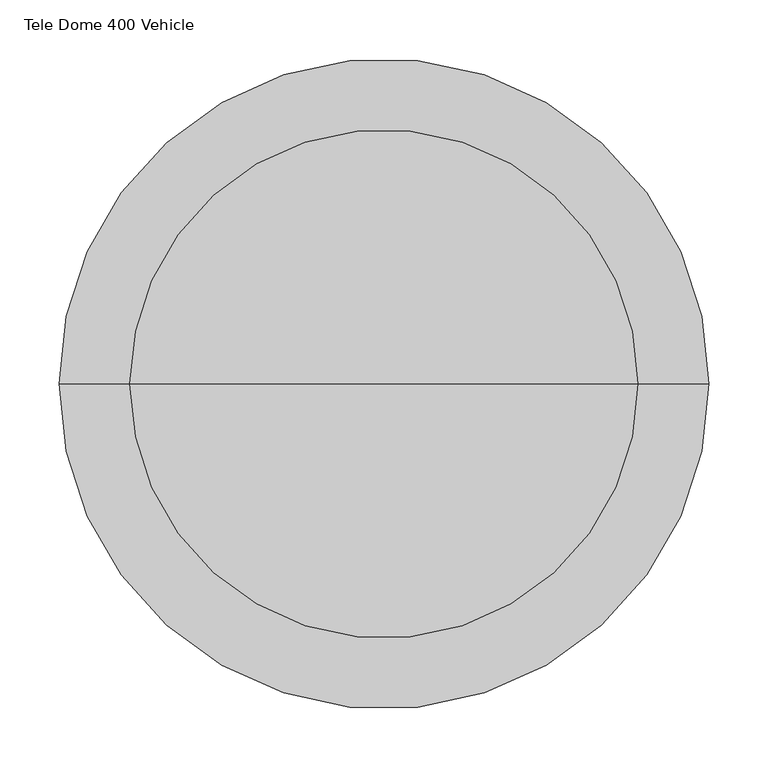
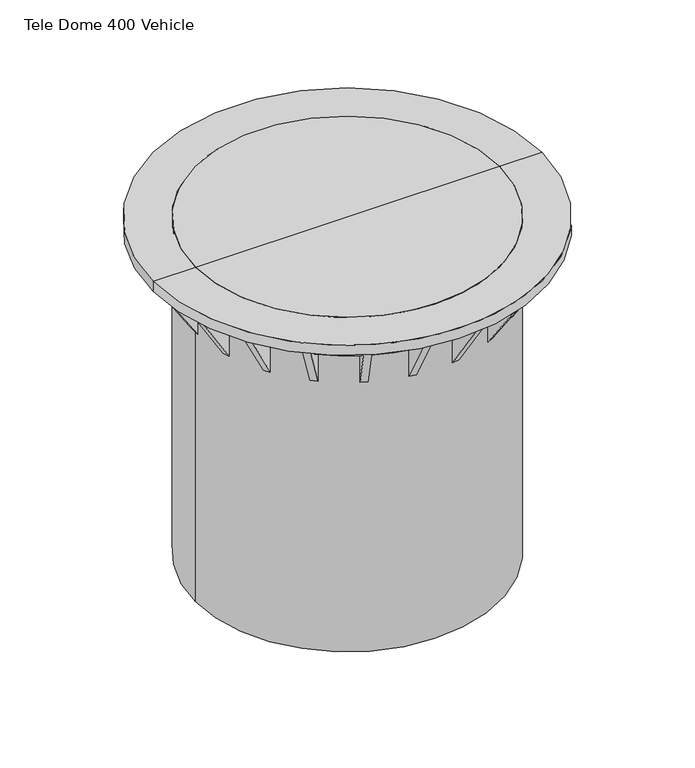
"""IFC4 building model written with IfcOpenShell, lengths in millimetres: proxy geometry, GRAF Tele Dome 400 Vehicle : Tele Dome 400 Vehicle."""

from ifc_helpers import new_model, si_unit, point, frame, origin, origin_2d, place, context, project, spatial, polyline, circle_curve, trimmed, segment, composite_curve, outline, extrude, source, transform, mapped, element, save
from ifc_brep_helpers import plane_surface, cylinder_surface, revolved_surface, advanced_brep


def tele_dome_400_vehicle_8fc43494(model_context):
    return source(origin(), model_context, "Body", "SolidModel", [
        advanced_brep(
        [(0.0, 0.0, -14.9500624), (-215.0, 0.0, -14.9500624), (215.0, 0.0, -14.9500624), (-215.0, 0.0, 0.0), (215.0, 0.0, 0.0), (0.0, 0.0, 0.0)],
        [
            (0, 1),
            (1, 2, circle_curve(frame((0.0, 0.0, -14.9500624), z_axis=(0.0, 0.0, -1.0), x_axis=(-1.0, 0.0, 0.0)), 215.0)),
            (2, 0),
            (2, 1, circle_curve(frame((0.0, 0.0, -14.9500624), z_axis=(0.0, 0.0, -1.0), x_axis=(-1.0, 0.0, 0.0)), 215.0)),
            (1, 3),
            (3, 4, circle_curve(frame((0.0, 0.0, 0.0), z_axis=(0.0, 0.0, -1.0), x_axis=(-1.0, 0.0, 0.0)), 215.0)),
            (4, 2),
            (4, 3, circle_curve(frame((0.0, 0.0, 0.0), z_axis=(0.0, 0.0, -1.0), x_axis=(-1.0, 0.0, 0.0)), 215.0)),
            (3, 5),
            (5, 4),
        ],
        [
            plane_surface(frame((0.0, 0.0, -14.9500624), z_axis=(0.0, 0.0, -1.0), x_axis=(-1.0, 0.0, 0.0))),
            cylinder_surface(frame((0.0, 0.0, -119.9500624), z_axis=(0.0, 0.0, -1.0), x_axis=(-1.0, 0.0, 0.0)), 215.0),
            plane_surface(frame((0.0, 0.0, 0.0), z_axis=(0.0, 0.0, 1.0), x_axis=(-1.0, 0.0, 0.0))),
        ],
        [
            (0, [[1, 2, 3]]),
            (0, [[-3, 4, -1]]),
            (1, [[-2, 5, 6, 7]]),
            (1, [[-4, -7, 8, -5]]),
            (2, [[-6, 9, 10]]),
            (2, [[-8, -10, -9]]),
        ],
    ),
        advanced_brep(
        [(215.0, 0.0, -14.9500624), (-215.0, 0.0, -14.9500624), (-275.0, 0.0, -14.9500624), (275.0, 0.0, -14.9500624), (-275.0, 0.0, 0.0), (275.0, 0.0, 0.0), (-215.0, 0.0, 0.0), (215.0, 0.0, 0.0)],
        [
            (0, 1, circle_curve(frame((0.0, 0.0, -14.9500624), z_axis=(0.0, 0.0, 1.0), x_axis=(-1.0, 0.0, 0.0)), 215.0)),
            (1, 2),
            (2, 3, circle_curve(frame((0.0, 0.0, -14.9500624), z_axis=(0.0, 0.0, -1.0), x_axis=(-1.0, 0.0, 0.0)), 275.0)),
            (3, 0),
            (1, 0, circle_curve(frame((0.0, 0.0, -14.9500624), z_axis=(0.0, 0.0, 1.0), x_axis=(-1.0, 0.0, 0.0)), 215.0)),
            (3, 2, circle_curve(frame((0.0, 0.0, -14.9500624), z_axis=(0.0, 0.0, -1.0), x_axis=(-1.0, 0.0, 0.0)), 275.0)),
            (2, 4),
            (4, 5, circle_curve(frame((0.0, 0.0, 0.0), z_axis=(0.0, 0.0, -1.0), x_axis=(-1.0, 0.0, 0.0)), 275.0)),
            (5, 3),
            (5, 4, circle_curve(frame((0.0, 0.0, 0.0), z_axis=(0.0, 0.0, -1.0), x_axis=(-1.0, 0.0, 0.0)), 275.0)),
            (4, 6),
            (6, 7, circle_curve(frame((0.0, 0.0, 0.0), z_axis=(0.0, 0.0, -1.0), x_axis=(-1.0, 0.0, 0.0)), 215.0)),
            (7, 5),
            (7, 6, circle_curve(frame((0.0, 0.0, 0.0), z_axis=(0.0, 0.0, -1.0), x_axis=(-1.0, 0.0, 0.0)), 215.0)),
            (6, 1),
            (0, 7),
        ],
        [
            plane_surface(frame((0.0, 0.0, -14.9500624), z_axis=(0.0, 0.0, -1.0), x_axis=(-1.0, 0.0, 0.0))),
            cylinder_surface(frame((0.0, 0.0, -119.9500624), z_axis=(0.0, 0.0, -1.0), x_axis=(-1.0, 0.0, 0.0)), 275.0),
            plane_surface(frame((0.0, 0.0, 0.0), z_axis=(0.0, 0.0, 1.0), x_axis=(-1.0, 0.0, 0.0))),
            revolved_surface(polyline([(-215.0, 0.0, -14.950062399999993), (-215.0, 0.0, 0.0)]), (0.0, 0.0, -119.9500624), (0.0, 0.0, -1.0)),
        ],
        [
            (0, [[1, 2, 3, 4]]),
            (0, [[5, -4, 6, -2]]),
            (1, [[-3, 7, 8, 9]]),
            (1, [[-6, -9, 10, -7]]),
            (2, [[-8, 11, 12, 13]]),
            (2, [[-10, -13, 14, -11]]),
            (3, [[-12, 15, -1, 16]]),
            (3, [[-14, -16, -5, -15]]),
        ],
    ),
        extrude(outline(composite_curve([segment(trimmed(circle_curve(origin_2d(), 215.0), [point((-215.0, 0.0))], [point((215.0, 0.0))], False, "CARTESIAN"), True, "CONTINUOUS"), segment(trimmed(circle_curve(origin_2d(), 215.0), [point((215.0, 0.0))], [point((-215.0, 0.0))], False, "CARTESIAN"), True, "CONTINUOUS")], self_intersect=False), holes=[composite_curve([segment(trimmed(circle_curve(origin_2d(), 202.0), [point((-202.0, 0.0))], [point((202.0, 0.0))], True, "CARTESIAN"), True, "CONTINUOUS"), segment(trimmed(circle_curve(origin_2d(), 202.0), [point((202.0, 0.0))], [point((-202.0, 0.0))], True, "CARTESIAN"), True, "CONTINUOUS")], self_intersect=False)]), frame((0.0, 0.0, -500.0), z_axis=(0.0, 0.0, 1.0), x_axis=(1.0, 0.0, 0.0)), (0.0, 0.0, 1.0), 485.0499376),
        extrude(outline(polyline([(82.4881085, 0.0), (82.4881085, -53.6625353), (0.0, 0.0), (82.4881085, 0.0)])), frame((-204.8823265, -65.3699646, -97.4381709), z_axis=(-0.28173255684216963, 0.9594929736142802, 0.0), x_axis=(0.0, 0.0, 1.0)), (0.0, 0.0, 1.0), 10.0),
        extrude(outline(polyline([(-14.9500624, -215.0), (-14.9500624, -268.6625353), (-97.4381709, -215.0), (-14.9500624, -215.0)])), frame((0.0, -5.0, 0.0), z_axis=(0.0, 1.0, 0.0), x_axis=(0.0, 0.0, 1.0)), (0.0, 0.0, 1.0), 10.0),
        extrude(outline(polyline([(0.0, 0.0), (53.6625353, 0.0), (0.0, -82.4881085), (0.0, 0.0)])), frame((-207.6996521, 55.7750349, -14.9500624), z_axis=(0.2817325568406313, 0.959492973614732, 0.0), x_axis=(-0.959492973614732, 0.2817325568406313, 0.0)), (0.0, 0.0, 1.0), 10.0),
        extrude(outline(polyline([(0.0, 0.0), (53.6625353, 0.0), (0.0, -82.4881085), (0.0, 0.0)])), frame((-137.0163099, -165.7604622, -14.9500624), z_axis=(-0.7557495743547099, 0.6548607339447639, 0.0), x_axis=(-0.6548607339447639, -0.7557495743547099, 0.0)), (0.0, 0.0, 1.0), 10.0),
        extrude(outline(polyline([(82.4881085, 0.0), (82.4881085, -53.6625353), (0.0, 0.0), (82.4881085, 0.0)])), frame((-178.1663055, -120.4440434, -97.4381709), z_axis=(-0.5406408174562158, 0.841253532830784, 0.0), x_axis=(0.0, 0.0, 1.0)), (0.0, 0.0, 1.0), 10.0),
        extrude(outline(polyline([(82.4881085, 0.0), (82.4881085, -53.6625352), (0.0, 0.0), (82.4881085, 0.0)])), frame((-84.7660678, -197.6479541, -97.4381709), z_axis=(-0.9096319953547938, 0.41541501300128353, 0.0), x_axis=(0.0, 0.0, 1.0)), (0.0, 0.0, 1.0), 10.0),
        extrude(outline(polyline([(82.4881085, 0.0), (82.4881085, -53.6625353), (0.0, 0.0), (82.4881085, 0.0)])), frame((-25.648583, -213.5231842, -97.4381709), z_axis=(-0.9898214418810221, 0.14231483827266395, 0.0), x_axis=(0.0, 0.0, 1.0)), (0.0, 0.0, 1.0), 10.0),
        extrude(outline(polyline([(-14.9500624, 215.0), (-97.4381709, 215.0), (-14.9500624, 268.6625353), (-14.9500624, 215.0)])), frame((0.0, -5.0, 0.0), z_axis=(0.0, 1.0, 0.0), x_axis=(0.0, 0.0, 1.0)), (0.0, 0.0, 1.0), 10.0),
        extrude(outline(polyline([(-82.4881085, 0.0), (0.0, 0.0), (-82.4881085, -53.6625353), (-82.4881085, 0.0)])), frame((207.6996521, 55.7750349, -97.4381709), z_axis=(-0.28173255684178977, 0.9594929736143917, 0.0), x_axis=(0.0, 0.0, -1.0)), (0.0, 0.0, 1.0), 10.0),
        extrude(outline(polyline([(-82.4881085, 0.0), (0.0, 0.0), (-82.4881085, -53.6625353), (-82.4881085, 0.0)])), frame((183.5727136, 112.0315081, -97.4381709), z_axis=(-0.5406408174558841, 0.8412535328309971, 0.0), x_axis=(0.0, 0.0, -1.0)), (0.0, 0.0, 1.0), 10.0),
        extrude(outline(polyline([(-82.4881085, 0.0), (0.0, 0.0), (-82.4881085, -53.6625353), (-82.4881085, 0.0)])), frame((178.1663055, -120.4440434, -97.4381709), z_axis=(0.5406408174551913, 0.8412535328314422, 0.0), x_axis=(0.0, 0.0, -1.0)), (0.0, 0.0, 1.0), 10.0),
        extrude(outline(polyline([(0.0, 0.0), (0.0, -82.4881085), (-53.6625353, 0.0), (0.0, 0.0)])), frame((204.8823265, -65.3699646, -14.9500624), z_axis=(0.2817325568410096, 0.9594929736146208, 0.0), x_axis=(-0.9594929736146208, 0.2817325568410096, 0.0)), (0.0, 0.0, 1.0), 10.0),
        extrude(outline(polyline([(0.0, 0.0), (0.0, -82.4881085), (-53.6625353, 0.0), (0.0, 0.0)])), frame((137.0163099, -165.7604622, -14.9500624), z_axis=(0.7557495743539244, 0.6548607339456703, 0.0), x_axis=(-0.6548607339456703, 0.7557495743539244, 0.0)), (0.0, 0.0, 1.0), 10.0),
        extrude(outline(polyline([(0.0, 0.0), (0.0, -82.4881085), (-53.6625352, 0.0), (0.0, 0.0)])), frame((84.7660678, -197.6479541, -14.9500624), z_axis=(0.909631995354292, 0.4154150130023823, 0.0), x_axis=(-0.4154150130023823, 0.909631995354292, 0.0)), (0.0, 0.0, 1.0), 10.0),
        extrude(outline(polyline([(-82.4881085, 0.0), (0.0, 0.0), (-82.4881085, -53.6625353), (-82.4881085, 0.0)])), frame((25.648583, -213.5231842, -97.4381709), z_axis=(0.9898214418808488, 0.1423148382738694, 0.0), x_axis=(0.0, 0.0, -1.0)), (0.0, 0.0, 1.0), 10.0),
        extrude(outline(polyline([(82.4881085, 0.0), (82.4881085, -53.6625353), (0.0, 0.0), (82.4881085, 0.0)])), frame((-35.5467974, 212.1000358, -97.4381709), z_axis=(0.9898214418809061, 0.1423148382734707, 0.0), x_axis=(0.0, 0.0, 1.0)), (0.0, 0.0, 1.0), 10.0),
        extrude(outline(polyline([(0.0, 0.0), (0.0, -82.4881085), (-53.6625353, 0.0), (0.0, 0.0)])), frame((35.5467974, 212.1000358, -14.9500624), z_axis=(-0.9898214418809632, 0.14231483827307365, 0.0), x_axis=(-0.14231483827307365, -0.9898214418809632, 0.0)), (0.0, 0.0, 1.0), 10.0),
        extrude(outline(polyline([(0.0, 0.0), (0.0, -82.4881085), (-53.6625353, 0.0), (0.0, 0.0)])), frame((93.8623878, 193.4938039, -14.9500624), z_axis=(-0.9096319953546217, 0.41541501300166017, 0.0), x_axis=(-0.41541501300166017, -0.9096319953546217, 0.0)), (0.0, 0.0, 1.0), 10.0),
        extrude(outline(polyline([(-82.4881085, 0.0), (0.0, 0.0), (-82.4881085, -53.6625353), (-82.4881085, 0.0)])), frame((144.5738057, 159.2118548, -97.4381709), z_axis=(-0.7557495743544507, 0.6548607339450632, 0.0), x_axis=(0.0, 0.0, -1.0)), (0.0, 0.0, 1.0), 10.0),
        extrude(outline(polyline([(0.0, 0.0), (53.6625353, 0.0), (0.0, -82.4881085), (0.0, 0.0)])), frame((-144.5738057, 159.2118548, -14.9500624), z_axis=(0.7557495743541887, 0.6548607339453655, 0.0), x_axis=(-0.6548607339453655, 0.7557495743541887, 0.0)), (0.0, 0.0, 1.0), 10.0),
        extrude(outline(polyline([(82.4881085, 0.0), (82.4881085, -53.6625353), (0.0, 0.0), (82.4881085, 0.0)])), frame((-93.8623878, 193.4938039, -97.4381709), z_axis=(0.9096319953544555, 0.4154150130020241, 0.0), x_axis=(0.0, 0.0, 1.0)), (0.0, 0.0, 1.0), 10.0),
        extrude(outline(polyline([(82.4881085, 0.0), (82.4881085, -53.6625353), (0.0, 0.0), (82.4881085, 0.0)])), frame((-183.5727136, 112.0315081, -97.4381709), z_axis=(0.5406408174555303, 0.8412535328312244, 0.0), x_axis=(0.0, 0.0, 1.0)), (0.0, 0.0, 1.0), 10.0),
        extrude(outline(polyline([(82.4881085, 0.0), (82.4881085, -53.6625353), (0.0, 0.0), (82.4881085, 0.0)])), frame((-207.6996521, 55.7750349, -97.4381709), z_axis=(0.28173255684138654, 0.9594929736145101, 0.0), x_axis=(0.0, 0.0, 1.0)), (0.0, 0.0, 1.0), 10.0),
        extrude(outline(polyline([(-14.9500624, -215.0), (-14.9500624, -268.6625353), (-97.4381709, -215.0), (-14.9500624, -215.0)])), frame((0.0, -5.0, 0.0), z_axis=(0.0, 1.0, 0.0), x_axis=(0.0, 0.0, 1.0)), (0.0, 0.0, 1.0), 10.0),
        extrude(outline(composite_curve([segment(polyline([(-214.9418526, 5.0), (-239.947911, 5.0)]), True, "CONTINUOUS"), segment(trimmed(circle_curve(origin_2d(), 240.0), [point((-239.947911, 5.0))], [point((-231.6369974, 62.8036736))], False, "CARTESIAN"), True, "CONTINUOUS"), segment(polyline([(-231.6369974, 62.8036736), (-207.6438601, 55.7586528)]), True, "CONTINUOUS"), segment(trimmed(circle_curve(origin_2d(), 215.0), [point((-207.6438601, 55.7586528))], [point((-214.9418526, 5.0))], True, "CARTESIAN"), True, "CONTINUOUS")], self_intersect=False)), frame((0.0, 0.0, -40.0), z_axis=(0.0, 0.0, 1.0), x_axis=(1.0, 0.0, 0.0)), (0.0, 0.0, 1.0), 25.0499376),
        extrude(outline(composite_curve([segment(trimmed(circle_curve(origin_2d(), 215.0), [point((-183.5237969, 112.0000712))], [point((-204.8265345, 65.3535826))], True, "CARTESIAN"), True, "CONTINUOUS"), segment(polyline([(-204.8265345, 65.3535826), (-228.8196719, 72.3986033)]), True, "CONTINUOUS"), segment(trimmed(circle_curve(origin_2d(), 240.0), [point((-228.8196719, 72.3986033))], [point((-204.5602319, 125.5193671))], False, "CARTESIAN"), True, "CONTINUOUS"), segment(polyline([(-204.5602319, 125.5193671), (-183.5237969, 112.0000712)]), True, "CONTINUOUS")], self_intersect=False)), frame((0.0, 0.0, -40.0), z_axis=(0.0, 0.0, 1.0), x_axis=(1.0, 0.0, 0.0)), (0.0, 0.0, 1.0), 25.0499376),
        extrude(outline(composite_curve([segment(polyline([(-178.1173888, 120.4126066), (-199.1538237, 133.9319024)]), True, "CONTINUOUS"), segment(trimmed(circle_curve(origin_2d(), 240.0), [point((-199.1538237, 133.9319024))], [point((-160.911213, 178.0662279))], False, "CARTESIAN"), True, "CONTINUOUS"), segment(polyline([(-160.911213, 178.0662279), (-144.5357272, 159.1679099)]), True, "CONTINUOUS"), segment(trimmed(circle_curve(origin_2d(), 215.0), [point((-144.5357272, 159.1679099))], [point((-178.1173888, 120.4126066))], True, "CARTESIAN"), True, "CONTINUOUS")], self_intersect=False)), frame((0.0, 0.0, -40.0), z_axis=(0.0, 0.0, 1.0), x_axis=(1.0, 0.0, 0.0)), (0.0, 0.0, 1.0), 25.0499376),
        extrude(outline(composite_curve([segment(trimmed(circle_curve(origin_2d(), 215.0), [point((-93.8382325, 193.4409112))], [point((-136.9782315, 165.7165173))], True, "CARTESIAN"), True, "CONTINUOUS"), segment(polyline([(-136.9782315, 165.7165173), (-153.3537172, 184.6148353)]), True, "CONTINUOUS"), segment(trimmed(circle_curve(origin_2d(), 240.0), [point((-153.3537172, 184.6148353))], [point((-104.2261246, 216.187222))], False, "CARTESIAN"), True, "CONTINUOUS"), segment(polyline([(-104.2261246, 216.187222), (-93.8382325, 193.4409112)]), True, "CONTINUOUS")], self_intersect=False)), frame((0.0, 0.0, -40.0), z_axis=(0.0, 0.0, 1.0), x_axis=(1.0, 0.0, 0.0)), (0.0, 0.0, 1.0), 25.0499376),
        extrude(outline(composite_curve([segment(trimmed(circle_curve(origin_2d(), 215.0), [point((136.9782315, 165.7165173))], [point((93.8382325, 193.4409112))], True, "CARTESIAN"), True, "CONTINUOUS"), segment(polyline([(93.8382325, 193.4409112), (104.2261246, 216.187222)]), True, "CONTINUOUS"), segment(trimmed(circle_curve(origin_2d(), 240.0), [point((104.2261246, 216.187222))], [point((153.3537172, 184.6148353))], False, "CARTESIAN"), True, "CONTINUOUS"), segment(polyline([(153.3537172, 184.6148353), (136.9782315, 165.7165173)]), True, "CONTINUOUS")], self_intersect=False)), frame((0.0, 0.0, -40.0), z_axis=(0.0, 0.0, 1.0), x_axis=(1.0, 0.0, 0.0)), (0.0, 0.0, 1.0), 25.0499376),
        extrude(outline(composite_curve([segment(polyline([(35.5385222, 212.0424803), (39.0972554, 236.7940131)]), True, "CONTINUOUS"), segment(trimmed(circle_curve(origin_2d(), 240.0), [point((39.0972554, 236.7940131))], [point((95.1298046, 220.3413721))], False, "CARTESIAN"), True, "CONTINUOUS"), segment(polyline([(95.1298046, 220.3413721), (84.7419125, 197.5950613)]), True, "CONTINUOUS"), segment(trimmed(circle_curve(origin_2d(), 215.0), [point((84.7419125, 197.5950613))], [point((35.5385222, 212.0424803))], True, "CARTESIAN"), True, "CONTINUOUS")], self_intersect=False)), frame((0.0, 0.0, -40.0), z_axis=(0.0, 0.0, 1.0), x_axis=(1.0, 0.0, 0.0)), (0.0, 0.0, 1.0), 25.0499376),
        extrude(outline(composite_curve([segment(trimmed(circle_curve(origin_2d(), 215.0), [point((25.6403078, 213.4656287))], [point((-25.6403078, 213.4656287))], True, "CARTESIAN"), True, "CONTINUOUS"), segment(polyline([(-25.6403078, 213.4656287), (-29.1990409, 238.2171614)]), True, "CONTINUOUS"), segment(trimmed(circle_curve(origin_2d(), 240.0), [point((-29.1990409, 238.2171614))], [point((29.1990409, 238.2171614))], False, "CARTESIAN"), True, "CONTINUOUS"), segment(polyline([(29.1990409, 238.2171614), (25.6403078, 213.4656287)]), True, "CONTINUOUS")], self_intersect=False)), frame((0.0, 0.0, -40.0), z_axis=(0.0, 0.0, 1.0), x_axis=(1.0, 0.0, 0.0)), (0.0, 0.0, 1.0), 25.0499376),
        extrude(outline(composite_curve([segment(polyline([(-84.7419125, 197.5950613), (-95.1298046, 220.3413721)]), True, "CONTINUOUS"), segment(trimmed(circle_curve(origin_2d(), 240.0), [point((-95.1298046, 220.3413721))], [point((-39.0972554, 236.7940131))], False, "CARTESIAN"), True, "CONTINUOUS"), segment(polyline([(-39.0972554, 236.7940131), (-35.5385222, 212.0424803)]), True, "CONTINUOUS"), segment(trimmed(circle_curve(origin_2d(), 215.0), [point((-35.5385222, 212.0424803))], [point((-84.7419125, 197.5950613))], True, "CARTESIAN"), True, "CONTINUOUS")], self_intersect=False)), frame((0.0, 0.0, -40.0), z_axis=(0.0, 0.0, 1.0), x_axis=(1.0, 0.0, 0.0)), (0.0, 0.0, 1.0), 25.0499376),
        extrude(outline(composite_curve([segment(trimmed(circle_curve(origin_2d(), 215.0), [point((35.5385222, -212.0424803))], [point((84.7419125, -197.5950613))], True, "CARTESIAN"), True, "CONTINUOUS"), segment(polyline([(84.7419125, -197.5950613), (95.1298046, -220.3413721)]), True, "CONTINUOUS"), segment(trimmed(circle_curve(origin_2d(), 240.0), [point((95.1298046, -220.3413721))], [point((39.0972554, -236.7940131))], False, "CARTESIAN"), True, "CONTINUOUS"), segment(polyline([(39.0972554, -236.7940131), (35.5385222, -212.0424803)]), True, "CONTINUOUS")], self_intersect=False)), frame((0.0, 0.0, -40.0), z_axis=(0.0, 0.0, 1.0), x_axis=(1.0, 0.0, 0.0)), (0.0, 0.0, 1.0), 25.0499376),
        extrude(outline(composite_curve([segment(polyline([(136.9782315, -165.7165173), (153.3537172, -184.6148353)]), True, "CONTINUOUS"), segment(trimmed(circle_curve(origin_2d(), 240.0), [point((153.3537172, -184.6148353))], [point((104.2261246, -216.187222))], False, "CARTESIAN"), True, "CONTINUOUS"), segment(polyline([(104.2261246, -216.187222), (93.8382325, -193.4409112)]), True, "CONTINUOUS"), segment(trimmed(circle_curve(origin_2d(), 215.0), [point((93.8382325, -193.4409112))], [point((136.9782315, -165.7165173))], True, "CARTESIAN"), True, "CONTINUOUS")], self_intersect=False)), frame((0.0, 0.0, -40.0), z_axis=(0.0, 0.0, 1.0), x_axis=(1.0, 0.0, 0.0)), (0.0, 0.0, 1.0), 25.0499376),
        extrude(outline(composite_curve([segment(trimmed(circle_curve(origin_2d(), 215.0), [point((144.5357272, -159.1679099))], [point((178.1173888, -120.4126066))], True, "CARTESIAN"), True, "CONTINUOUS"), segment(polyline([(178.1173888, -120.4126066), (199.1538237, -133.9319024)]), True, "CONTINUOUS"), segment(trimmed(circle_curve(origin_2d(), 240.0), [point((199.1538237, -133.9319024))], [point((160.911213, -178.0662279))], False, "CARTESIAN"), True, "CONTINUOUS"), segment(polyline([(160.911213, -178.0662279), (144.5357272, -159.1679099)]), True, "CONTINUOUS")], self_intersect=False)), frame((0.0, 0.0, -40.0), z_axis=(0.0, 0.0, 1.0), x_axis=(1.0, 0.0, 0.0)), (0.0, 0.0, 1.0), 25.0499376),
        extrude(outline(composite_curve([segment(polyline([(204.8265345, -65.3535826), (228.8196719, -72.3986033)]), True, "CONTINUOUS"), segment(trimmed(circle_curve(origin_2d(), 240.0), [point((228.8196719, -72.3986033))], [point((204.5602319, -125.5193671))], False, "CARTESIAN"), True, "CONTINUOUS"), segment(polyline([(204.5602319, -125.5193671), (183.5237969, -112.0000712)]), True, "CONTINUOUS"), segment(trimmed(circle_curve(origin_2d(), 215.0), [point((183.5237969, -112.0000712))], [point((204.8265345, -65.3535826))], True, "CARTESIAN"), True, "CONTINUOUS")], self_intersect=False)), frame((0.0, 0.0, -40.0), z_axis=(0.0, 0.0, 1.0), x_axis=(1.0, 0.0, 0.0)), (0.0, 0.0, 1.0), 25.0499376),
        extrude(outline(composite_curve([segment(polyline([(144.5357272, 159.1679099), (160.911213, 178.0662279)]), True, "CONTINUOUS"), segment(trimmed(circle_curve(origin_2d(), 240.0), [point((160.911213, 178.0662279))], [point((199.1538237, 133.9319024))], False, "CARTESIAN"), True, "CONTINUOUS"), segment(polyline([(199.1538237, 133.9319024), (178.1173888, 120.4126066)]), True, "CONTINUOUS"), segment(trimmed(circle_curve(origin_2d(), 215.0), [point((178.1173888, 120.4126066))], [point((144.5357272, 159.1679099))], True, "CARTESIAN"), True, "CONTINUOUS")], self_intersect=False)), frame((0.0, 0.0, -40.0), z_axis=(0.0, 0.0, 1.0), x_axis=(1.0, 0.0, 0.0)), (0.0, 0.0, 1.0), 25.0499376),
        extrude(outline(composite_curve([segment(trimmed(circle_curve(origin_2d(), 215.0), [point((204.8265345, 65.3535826))], [point((183.5237969, 112.0000712))], True, "CARTESIAN"), True, "CONTINUOUS"), segment(polyline([(183.5237969, 112.0000712), (204.5602319, 125.5193671)]), True, "CONTINUOUS"), segment(trimmed(circle_curve(origin_2d(), 240.0), [point((204.5602319, 125.5193671))], [point((228.8196719, 72.3986033))], False, "CARTESIAN"), True, "CONTINUOUS"), segment(polyline([(228.8196719, 72.3986033), (204.8265345, 65.3535826)]), True, "CONTINUOUS")], self_intersect=False)), frame((0.0, 0.0, -40.0), z_axis=(0.0, 0.0, 1.0), x_axis=(1.0, 0.0, 0.0)), (0.0, 0.0, 1.0), 25.0499376),
        extrude(outline(composite_curve([segment(polyline([(207.6438601, 55.7586528), (231.6369974, 62.8036736)]), True, "CONTINUOUS"), segment(trimmed(circle_curve(origin_2d(), 240.0), [point((231.6369974, 62.8036736))], [point((239.947911, 5.0))], False, "CARTESIAN"), True, "CONTINUOUS"), segment(polyline([(239.947911, 5.0), (214.9418526, 5.0)]), True, "CONTINUOUS"), segment(trimmed(circle_curve(origin_2d(), 215.0), [point((214.9418526, 5.0))], [point((207.6438601, 55.7586528))], True, "CARTESIAN"), True, "CONTINUOUS")], self_intersect=False)), frame((0.0, 0.0, -40.0), z_axis=(0.0, 0.0, 1.0), x_axis=(1.0, 0.0, 0.0)), (0.0, 0.0, 1.0), 25.0499376),
        extrude(outline(composite_curve([segment(trimmed(circle_curve(origin_2d(), 215.0), [point((207.6438601, -55.7586528))], [point((214.9418526, -5.0))], True, "CARTESIAN"), True, "CONTINUOUS"), segment(polyline([(214.9418526, -5.0), (239.947911, -5.0)]), True, "CONTINUOUS"), segment(trimmed(circle_curve(origin_2d(), 240.0), [point((239.947911, -5.0))], [point((231.6369974, -62.8036736))], False, "CARTESIAN"), True, "CONTINUOUS"), segment(polyline([(231.6369974, -62.8036736), (207.6438601, -55.7586528)]), True, "CONTINUOUS")], self_intersect=False)), frame((0.0, 0.0, -40.0), z_axis=(0.0, 0.0, 1.0), x_axis=(1.0, 0.0, 0.0)), (0.0, 0.0, 1.0), 25.0499376),
        extrude(outline(composite_curve([segment(polyline([(25.6403078, -213.4656287), (29.1990409, -238.2171614)]), True, "CONTINUOUS"), segment(trimmed(circle_curve(origin_2d(), 240.0), [point((29.1990409, -238.2171614))], [point((-29.1990409, -238.2171614))], False, "CARTESIAN"), True, "CONTINUOUS"), segment(polyline([(-29.1990409, -238.2171614), (-25.6403078, -213.4656287)]), True, "CONTINUOUS"), segment(trimmed(circle_curve(origin_2d(), 215.0), [point((-25.6403078, -213.4656287))], [point((25.6403078, -213.4656287))], True, "CARTESIAN"), True, "CONTINUOUS")], self_intersect=False)), frame((0.0, 0.0, -40.0), z_axis=(0.0, 0.0, 1.0), x_axis=(1.0, 0.0, 0.0)), (0.0, 0.0, 1.0), 25.0499376),
        extrude(outline(composite_curve([segment(trimmed(circle_curve(origin_2d(), 215.0), [point((-84.7419125, -197.5950613))], [point((-35.5385222, -212.0424803))], True, "CARTESIAN"), True, "CONTINUOUS"), segment(polyline([(-35.5385222, -212.0424803), (-39.0972554, -236.7940131)]), True, "CONTINUOUS"), segment(trimmed(circle_curve(origin_2d(), 240.0), [point((-39.0972554, -236.7940131))], [point((-95.1298046, -220.3413721))], False, "CARTESIAN"), True, "CONTINUOUS"), segment(polyline([(-95.1298046, -220.3413721), (-84.7419125, -197.5950613)]), True, "CONTINUOUS")], self_intersect=False)), frame((0.0, 0.0, -40.0), z_axis=(0.0, 0.0, 1.0), x_axis=(1.0, 0.0, 0.0)), (0.0, 0.0, 1.0), 25.0499376),
        extrude(outline(composite_curve([segment(polyline([(-93.8382325, -193.4409112), (-104.2261246, -216.187222)]), True, "CONTINUOUS"), segment(trimmed(circle_curve(origin_2d(), 240.0), [point((-104.2261246, -216.187222))], [point((-153.3537172, -184.6148353))], False, "CARTESIAN"), True, "CONTINUOUS"), segment(polyline([(-153.3537172, -184.6148353), (-136.9782315, -165.7165173)]), True, "CONTINUOUS"), segment(trimmed(circle_curve(origin_2d(), 215.0), [point((-136.9782315, -165.7165173))], [point((-93.8382325, -193.4409112))], True, "CARTESIAN"), True, "CONTINUOUS")], self_intersect=False)), frame((0.0, 0.0, -40.0), z_axis=(0.0, 0.0, 1.0), x_axis=(1.0, 0.0, 0.0)), (0.0, 0.0, 1.0), 25.0499376),
        extrude(outline(composite_curve([segment(trimmed(circle_curve(origin_2d(), 215.0), [point((-178.1173888, -120.4126066))], [point((-144.5357272, -159.1679099))], True, "CARTESIAN"), True, "CONTINUOUS"), segment(polyline([(-144.5357272, -159.1679099), (-160.911213, -178.0662279)]), True, "CONTINUOUS"), segment(trimmed(circle_curve(origin_2d(), 240.0), [point((-160.911213, -178.0662279))], [point((-199.1538237, -133.9319024))], False, "CARTESIAN"), True, "CONTINUOUS"), segment(polyline([(-199.1538237, -133.9319024), (-178.1173888, -120.4126066)]), True, "CONTINUOUS")], self_intersect=False)), frame((0.0, 0.0, -40.0), z_axis=(0.0, 0.0, 1.0), x_axis=(1.0, 0.0, 0.0)), (0.0, 0.0, 1.0), 25.0499376),
        extrude(outline(composite_curve([segment(polyline([(-183.5237969, -112.0000712), (-204.5602319, -125.5193671)]), True, "CONTINUOUS"), segment(trimmed(circle_curve(origin_2d(), 240.0), [point((-204.5602319, -125.5193671))], [point((-228.8196719, -72.3986033))], False, "CARTESIAN"), True, "CONTINUOUS"), segment(polyline([(-228.8196719, -72.3986033), (-204.8265345, -65.3535826)]), True, "CONTINUOUS"), segment(trimmed(circle_curve(origin_2d(), 215.0), [point((-204.8265345, -65.3535826))], [point((-183.5237969, -112.0000712))], True, "CARTESIAN"), True, "CONTINUOUS")], self_intersect=False)), frame((0.0, 0.0, -40.0), z_axis=(0.0, 0.0, 1.0), x_axis=(1.0, 0.0, 0.0)), (0.0, 0.0, 1.0), 25.0499376),
        extrude(outline(composite_curve([segment(trimmed(circle_curve(origin_2d(), 215.0), [point((-214.9418526, -5.0))], [point((-207.6438601, -55.7586528))], True, "CARTESIAN"), True, "CONTINUOUS"), segment(polyline([(-207.6438601, -55.7586528), (-231.6369974, -62.8036736)]), True, "CONTINUOUS"), segment(trimmed(circle_curve(origin_2d(), 240.0), [point((-231.6369974, -62.8036736))], [point((-239.947911, -5.0))], False, "CARTESIAN"), True, "CONTINUOUS"), segment(polyline([(-239.947911, -5.0), (-214.9418526, -5.0)]), True, "CONTINUOUS")], self_intersect=False)), frame((0.0, 0.0, -40.0), z_axis=(0.0, 0.0, 1.0), x_axis=(1.0, 0.0, 0.0)), (0.0, 0.0, 1.0), 25.0499376),
    ])


if __name__ == "__main__":
    model = new_model("IFC4")
    model_context = context("Model", 3, world=origin())
    ifc_project = project(units=[si_unit("LENGTHUNIT", "METRE", prefix="MILLI")], contexts=[model_context])
    site = spatial("IfcSite", under=ifc_project)
    building = spatial("IfcBuilding", under=site)
    placement = place(None, origin())
    tele_dome_400_vehicle_shape = tele_dome_400_vehicle_8fc43494(model_context)
    element("IfcBuildingElementProxy", 1, Name="GRAF Tele Dome 400 Vehicle : Tele Dome 400 Vehicle", ObjectType="GRAF Tele Dome 400 Vehicle : Tele Dome 400 Vehicle", at=placement, inside=building, context=model_context, shape_type="MappedRepresentation", body=[
        mapped(tele_dome_400_vehicle_shape, transform((0.0, 0.0, 0.0), x_axis=(1.0, 0.0, 0.0), y_axis=(0.0, 1.0, 0.0), z_axis=(0.0, 0.0, 1.0))),
    ])
    save(model, "model.ifc")
